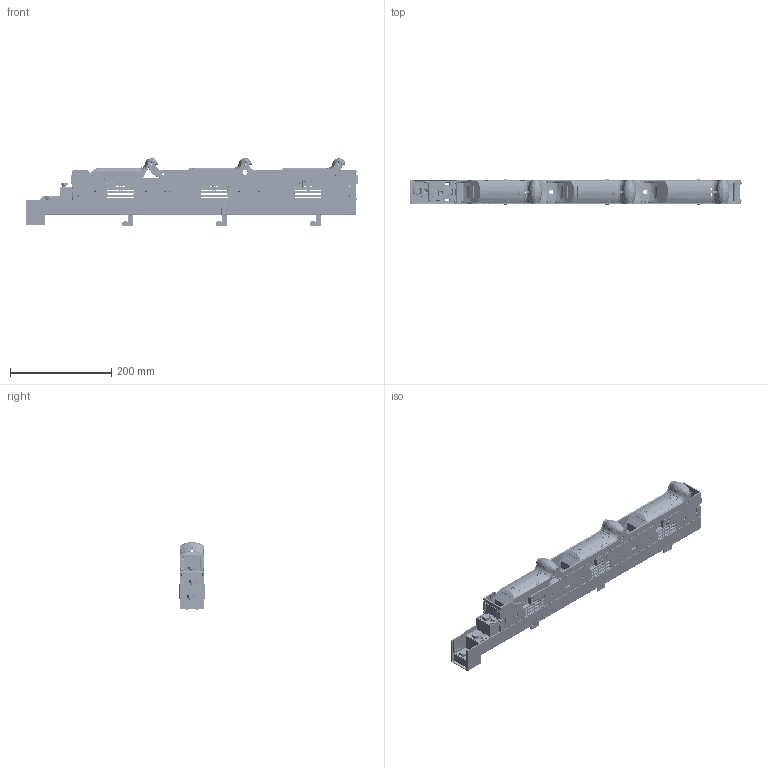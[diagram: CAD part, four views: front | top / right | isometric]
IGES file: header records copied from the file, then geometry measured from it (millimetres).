
Start section: SolidWorks IGES file using analytic representation for surfaces
Global section: file name: U:\14_RD\05_Technical_office\04_Office\Hrdinova\3D modely - IGES\Varius - FSD\FSD00-33D-F__CS-FS00-3H.IGS; native system: SolidWorks 2011; preprocessor: SolidWorks 2011; author: adhrja3; date: 170620.115857; units: millimetre
Bounding box: 654.93 x 49.8 x 134.12 mm (x, y, z)
Surface area: 683564.9 mm2 (no closed solid volume)
Topology: 0 solids, 0 shells, 10599 faces, 86504 edges, 86374 vertices
Faces by surface type: bspline 6632, revolution 3967
